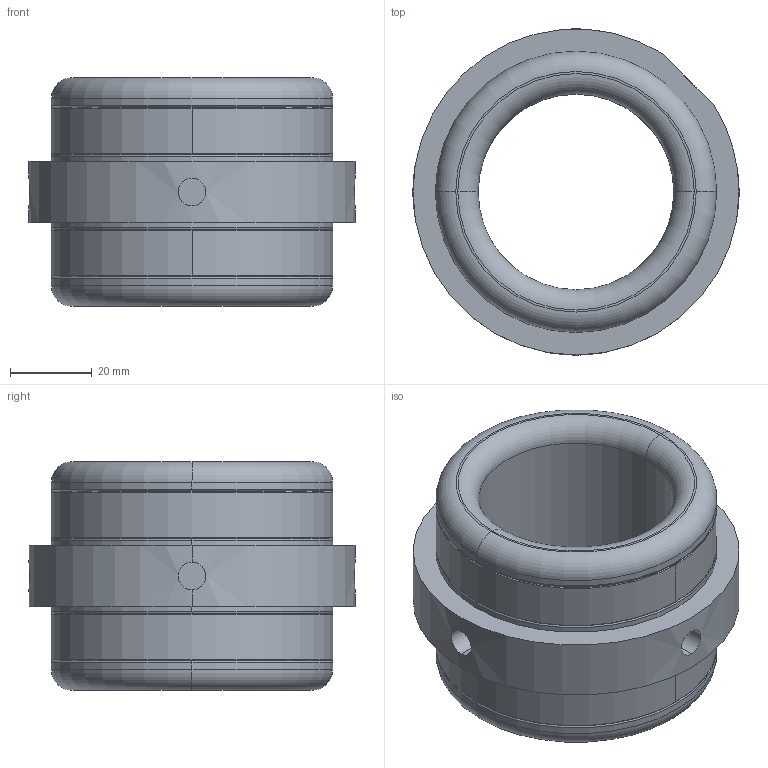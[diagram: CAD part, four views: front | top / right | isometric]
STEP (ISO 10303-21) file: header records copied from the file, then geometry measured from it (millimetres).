
FILE_DESCRIPTION (( 'STEP AP214' ), '1' );
FILE_NAME ('1322.STEP', '2017-08-29T19:36:31', ( 'EMI' ), ( 'Microsoft' ), 'SwSTEP 2.0', 'SolidWorks 2017', '' );
FILE_SCHEMA (( 'AUTOMOTIVE_DESIGN' ));
Length unit declared in the file: millimetre
Products named in the file (1): 1322
Bounding box: 80 x 80 x 56 mm (x, y, z)
Volume: 121332.2 mm3; surface area: 49052.4 mm2
Topology: 4 solids, 4 shells, 78 faces, 162 edges, 96 vertices
Faces by surface type: cylinder 39, torus 24, plane 15
Entity records: 3137 total; most frequent: CARTESIAN_POINT 667, DIRECTION 418, ORIENTED_EDGE 324, AXIS2_PLACEMENT_3D 187, EDGE_CURVE 162, CIRCLE 108, VERTEX_POINT 96, EDGE_LOOP 92
